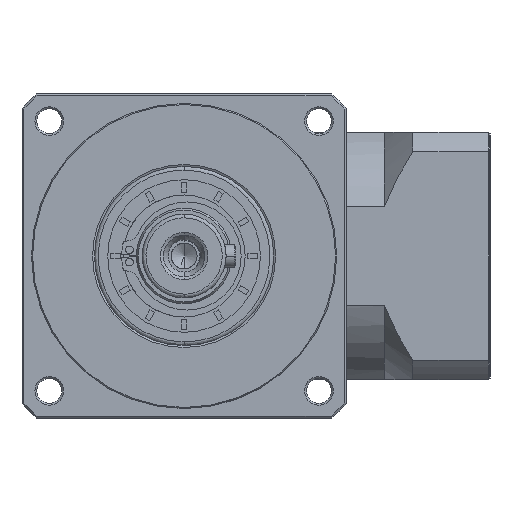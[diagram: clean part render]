
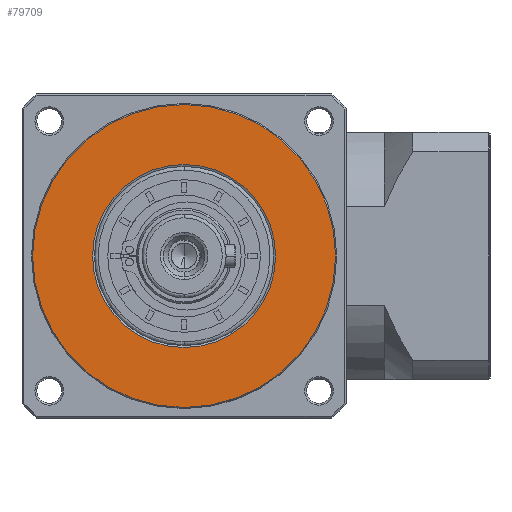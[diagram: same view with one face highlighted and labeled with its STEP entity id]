
A CAD part, left-side view. The second image highlights one B-rep face of the part: STEP entity #79709.
In plain terms, the highlighted planar face has unit normal (-1, 0, 0).
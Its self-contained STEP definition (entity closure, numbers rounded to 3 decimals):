
#5588 = EDGE_CURVE ( 'NONE', #76355, #34912, #36187, .T. ) ;
#7885 = CARTESIAN_POINT ( 'NONE',  ( -156.602, -19.575, -107.407 ) ) ;
#16844 = CARTESIAN_POINT ( 'NONE',  ( -156.602, 20.136, -107.407 ) ) ;
#18746 = ORIENTED_EDGE ( 'NONE', *, *, #5588, .F. ) ;
#21771 = DIRECTION ( 'NONE',  ( 0., 1., 0. ) ) ;
#23997 = PLANE ( 'NONE',  #177712 ) ;
#26213 = CARTESIAN_POINT ( 'NONE',  ( -156.602, -19.575, -107.407 ) ) ;
#30859 = CARTESIAN_POINT ( 'NONE',  ( -156.602, -19.575, -107.407 ) ) ;
#34608 = EDGE_CURVE ( 'NONE', #44396, #165665, #174041, .T. ) ;
#34912 = VERTEX_POINT ( 'NONE', #16844 ) ;
#36187 = CIRCLE ( 'NONE', #81176, 39.711 ) ;
#36467 = FACE_OUTER_BOUND ( 'NONE', #92384, .T. ) ;
#40148 = DIRECTION ( 'NONE',  ( 0., 1., 0. ) ) ;
#43849 = CARTESIAN_POINT ( 'NONE',  ( -156.602, -59.286, -107.407 ) ) ;
#44396 = VERTEX_POINT ( 'NONE', #151951 ) ;
#44798 = DIRECTION ( 'NONE',  ( 0., 0., -1. ) ) ;
#46430 = CARTESIAN_POINT ( 'NONE',  ( -156.602, -19.575, -107.407 ) ) ;
#52459 = CARTESIAN_POINT ( 'NONE',  ( -156.602, -19.575, -107.407 ) ) ;
#60317 = DIRECTION ( 'NONE',  ( 0., 0., -1. ) ) ;
#66303 = DIRECTION ( 'NONE',  ( 0., 0., -1. ) ) ;
#68726 = ORIENTED_EDGE ( 'NONE', *, *, #147613, .F. ) ;
#76355 = VERTEX_POINT ( 'NONE', #43849 ) ;
#79709 = ADVANCED_FACE ( 'NONE', ( #36467, #178806 ), #23997, .T. ) ;
#81176 = AXIS2_PLACEMENT_3D ( 'NONE', #7885, #104436, #21771 ) ;
#85046 = EDGE_CURVE ( 'NONE', #165665, #44396, #169367, .T. ) ;
#85866 = AXIS2_PLACEMENT_3D ( 'NONE', #26213, #122682, #40148 ) ;
#92384 = EDGE_LOOP ( 'NONE', ( #68726, #18746 ) ) ;
#100610 = EDGE_LOOP ( 'NONE', ( #108491, #170333 ) ) ;
#101894 = CARTESIAN_POINT ( 'NONE',  ( -156.602, -19.575, -131.407 ) ) ;
#104436 = DIRECTION ( 'NONE',  ( 1., 0., 0. ) ) ;
#108491 = ORIENTED_EDGE ( 'NONE', *, *, #85046, .T. ) ;
#122682 = DIRECTION ( 'NONE',  ( 1., 0., 0. ) ) ;
#127331 = DIRECTION ( 'NONE',  ( 1., 0., 0. ) ) ;
#142850 = DIRECTION ( 'NONE',  ( 1., 0., 0. ) ) ;
#147613 = EDGE_CURVE ( 'NONE', #34912, #76355, #164586, .T. ) ;
#148871 = DIRECTION ( 'NONE',  ( -1., 0., 0. ) ) ;
#151951 = CARTESIAN_POINT ( 'NONE',  ( -156.602, -19.575, -83.407 ) ) ;
#162699 = AXIS2_PLACEMENT_3D ( 'NONE', #46430, #142850, #60317 ) ;
#164586 = CIRCLE ( 'NONE', #85866, 39.711 ) ;
#164907 = AXIS2_PLACEMENT_3D ( 'NONE', #30859, #127331, #44798 ) ;
#165665 = VERTEX_POINT ( 'NONE', #101894 ) ;
#169367 = CIRCLE ( 'NONE', #162699, 24. ) ;
#170333 = ORIENTED_EDGE ( 'NONE', *, *, #34608, .T. ) ;
#174041 = CIRCLE ( 'NONE', #164907, 24. ) ;
#177712 = AXIS2_PLACEMENT_3D ( 'NONE', #52459, #148871, #66303 ) ;
#178806 = FACE_BOUND ( 'NONE', #100610, .T. ) ;
